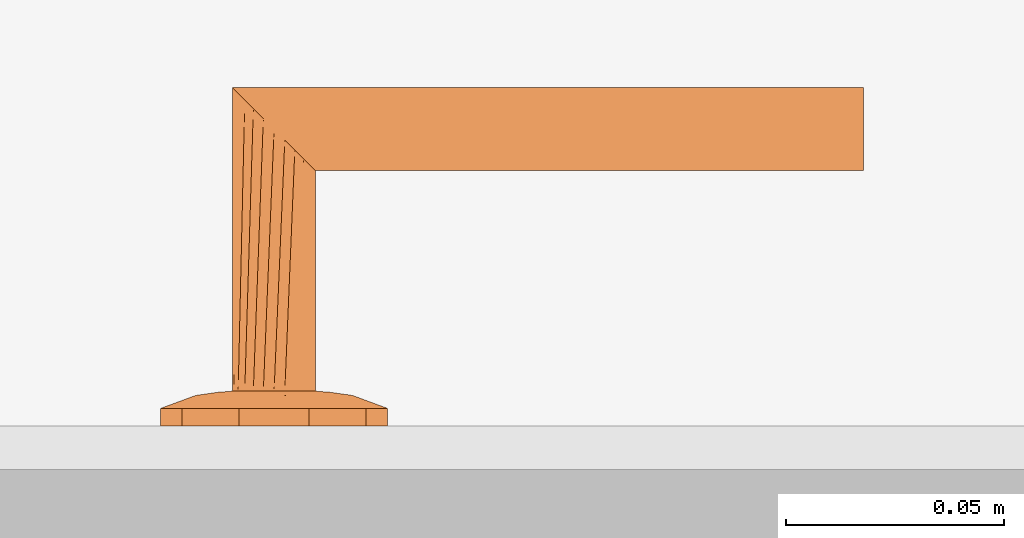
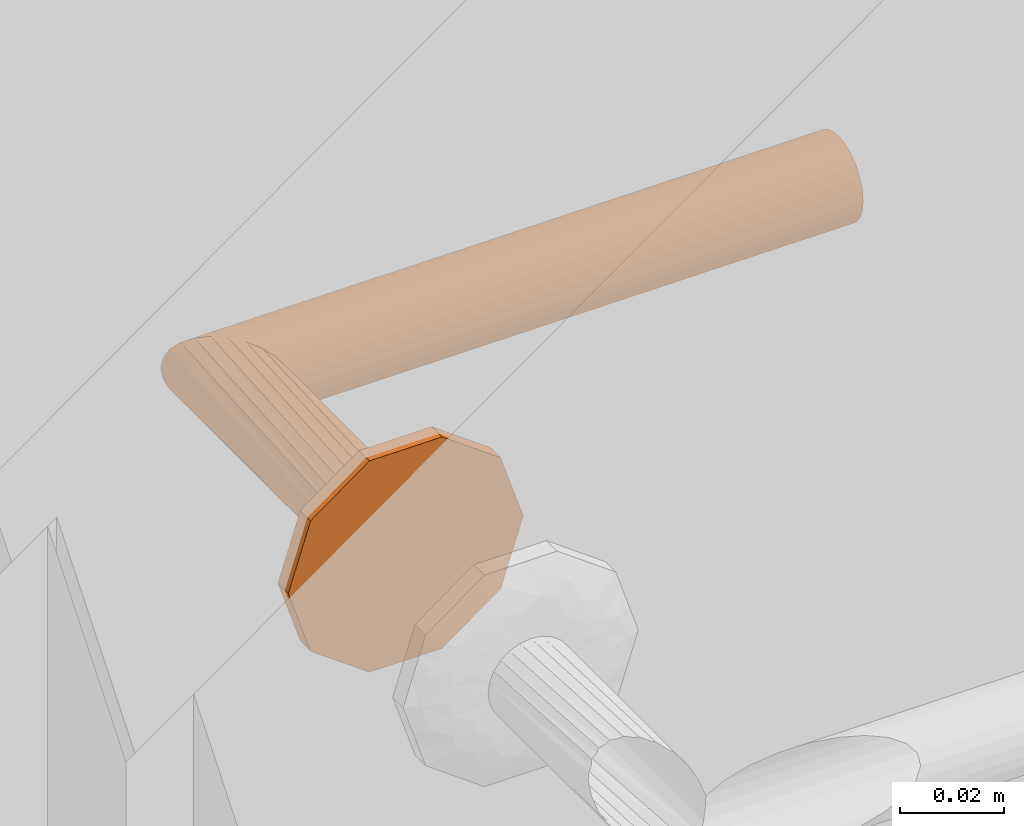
# One storey, part 44 of 55: 1 proxy.
"""IFC2X3 building model written with IfcOpenShell, lengths in millimetres."""

from ifc_helpers import new_model, entity, si_unit, converted_unit, direction, frame, origin, place, context, subcontext, project, spatial, faceted_brep, source, transform, mapped, material, type_object, type_shapes, element, save


model = new_model("IFC2X3")

# Units and contexts
model_context = context("Model", 3, precision=0.01, world=origin(), true_north=direction((6.123233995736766e-17, 1.0)))
plan_context = context("Plan", 3, precision=0.01, world=origin(), true_north=direction((6.123233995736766e-17, 1.0)))
body_context = subcontext(model_context, "Body", "Model", "MODEL_VIEW")
ifc_project = project(units=[si_unit("LENGTHUNIT", "METRE", prefix="MILLI"), converted_unit("PLANEANGLEUNIT", "DEGREE", entity("IfcPlaneAngleMeasure", 0.017453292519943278), si_unit("PLANEANGLEUNIT", "RADIAN"), dimensions=[0, 0, 0, 0, 0, 0, 0]), si_unit("AREAUNIT", "SQUARE_METRE")], contexts=[model_context, plan_context])

# Site, building, storey, space
site_placement = place(None, origin())
site = spatial("IfcSite", under=ifc_project, at=site_placement, Name="Default", CompositionType="ELEMENT")
building_placement = place(site_placement, origin())
building = spatial("IfcBuilding", under=site, at=building_placement, CompositionType="ELEMENT")
storey_placement = place(building_placement, origin())
storey = spatial("IfcBuildingStorey", under=building, at=storey_placement, Name="1K", CompositionType="ELEMENT", Elevation=0.0)
space_placement = place(storey_placement, origin())
space = spatial("IfcSpace", under=storey, at=space_placement, Name="1-0.5", CompositionType="ELEMENT", InteriorOrExteriorSpace="INTERNAL")

# Proxy
ifc_material = material(Name="<Unnamed>")
building_element_proxy_type = type_object("IfcBuildingElementProxyType", Name="Door-handle_Lever_ABLOY_INOXI_3-19ss-002_RT:Default", PredefinedType="NOTDEFINED", material=ifc_material)
shared_shape = source(origin(), body_context, "Body", "Brep", [
    faceted_brep([(0.0, 0.0, 0.0), (21.034441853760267, -15.282416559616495, 0.0), (14.534441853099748, -20.00494299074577, 0.0), (8.034441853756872, -24.72746942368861, 0.0), (0.0, -24.72746942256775, 0.0), (23.51722092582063, -7.6412082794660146, 0.0), (26.0, 0.0, 0.0), (-8.034441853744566, -24.727469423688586, 0.0), (-14.534441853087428, -20.00494299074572, 0.0), (-21.03444185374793, -15.282416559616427, 0.0), (-23.517220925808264, -7.641208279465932, 0.0), (-26.0, 0.0, 0.0), (-23.517220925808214, 7.641208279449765, 0.0), (23.517220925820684, 7.641208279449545, 0.0), (21.034441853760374, 15.282416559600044, 0.0), (14.53444185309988, 20.00494299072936, 0.0), (8.034441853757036, 24.72746942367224, 0.0), (-21.034441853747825, 15.282416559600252, 0.0), (-14.53444185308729, 20.004942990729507, 0.0), (-8.0344418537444, 24.72746942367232, 0.0), (0.0, 24.72746942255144, 0.0), (0.0, 0.0, 8.0), (4.7500000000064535, -8.227241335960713, 8.0), (5.937500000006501, -6.170431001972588, 8.0), (7.125000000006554, -4.113620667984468, 8.0), (8.312500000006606, -2.0568103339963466, 8.0), (9.500000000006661, 0.0, 8.0), (8.312500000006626, 2.056810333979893, 8.0), (2.3750000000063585, -8.227241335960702, 8.0), (0.0, -8.227241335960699, 8.0), (-2.3749999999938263, -8.227241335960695, 8.0), (-4.749999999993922, -8.227241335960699, 8.0), (-5.937499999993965, -6.170431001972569, 8.0), (-7.124999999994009, -4.113620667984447, 8.0), (-8.312499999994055, -2.056810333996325, 8.0), (-9.499999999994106, 0.0, 8.0), (7.125000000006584, 4.113620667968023, 8.0), (5.937500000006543, 6.170431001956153, 8.0), (4.750000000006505, 8.227241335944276, 8.0), (2.3750000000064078, 8.22724133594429, 8.0), (-8.31249999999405, 2.0568103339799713, 8.0), (-7.12499999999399, 4.113620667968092, 8.0), (-5.9374999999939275, 6.170431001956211, 8.0), (-4.74999999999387, 8.227241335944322, 8.0), (0.0, 8.227241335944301, 8.0), (-2.374999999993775, 8.227241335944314, 8.0), (-22.488765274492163, -10.806469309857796, 4.030771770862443), (-16.663919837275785, -7.932665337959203, 6.877259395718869), (-20.643071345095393, -6.292822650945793, 5.929480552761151), (-12.50457926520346, -5.179566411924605, 7.774932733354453), (-16.764060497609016, -3.820257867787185, 7.1747985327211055), (-9.071726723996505, -10.311606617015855, 7.7520782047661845), (-11.963426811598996, -8.625290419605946, 7.618343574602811), (-11.979136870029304, -13.678312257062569, 6.945778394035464), (5.7585542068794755, -20.96753300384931, 5.871476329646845), (0.0, -24.72746942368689, 4.030771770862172), (8.03444185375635, -24.727469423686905, 4.030771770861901), (16.66391982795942, -7.932665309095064, 6.877259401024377), (22.488765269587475, -10.806469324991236, 4.03077177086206), (20.64307133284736, -6.29282258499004, 5.929480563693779), (14.534441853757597, -20.004942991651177, 4.030771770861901), (9.499431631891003, -18.64368355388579, 6.154325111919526), (-15.783149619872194, -11.991003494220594, 6.50080018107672), (-21.034441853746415, -15.282416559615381, 4.030771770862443), (-14.53444185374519, -20.00494299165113, 4.030771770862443), (-23.012042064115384, 0.0, 5.135401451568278), (-23.943088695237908, -6.330522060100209, 4.030771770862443), (11.96342678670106, -8.62529049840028, 7.618343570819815), (12.504579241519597, -5.179566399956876, 7.774932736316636), (16.764060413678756, -3.8202578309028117, 7.17479855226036), (15.783149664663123, -11.991003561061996, 6.50080015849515), (17.985351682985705, 0.0, 6.993737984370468), (23.012042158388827, 0.0, 5.135401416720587), (8.661516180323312, -10.478936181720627, 7.768126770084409), (-8.03444185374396, -24.727469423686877, 4.030771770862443), (-3.3573143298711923, -21.197247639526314, 5.971427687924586), (-9.941915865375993, -17.061976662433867, 6.522757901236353), (-5.973257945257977, -16.430139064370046, 7.110979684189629), (-7.711266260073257, -12.760344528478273, 7.594456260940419), (11.979136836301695, -13.678312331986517, 6.945778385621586), (7.511307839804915, -13.358932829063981, 7.529187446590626), (5.953298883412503, -16.50608604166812, 7.096344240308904), (-1.5654593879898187, -15.307443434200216, 7.519134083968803), (-7.784980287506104, -20.476295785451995, 5.812837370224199), (2.8135289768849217, -17.76392260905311, 6.993737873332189), (-17.98535168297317, 0.0, 6.993737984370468), (-26.0, 0.0, 4.030771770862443), (-23.51722092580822, -7.641208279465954, 4.030771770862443), (23.943088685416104, -6.33052209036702, 4.030771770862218), (24.308823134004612, -5.204907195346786, 4.030771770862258), (26.0, 0.0, 4.030771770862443), (21.03444185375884, -15.282416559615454, 4.030771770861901), (22.617646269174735, -10.40981439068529, 4.030771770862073), (22.488765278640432, 10.806469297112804, 4.030771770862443), (16.66391984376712, 7.932665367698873, 6.877259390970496), (20.643071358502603, 6.292822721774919, 5.929480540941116), (12.504579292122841, 5.179566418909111, 7.774932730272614), (16.764060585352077, 3.8202579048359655, 7.174798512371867), (9.07172672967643, 10.31160659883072, 7.752078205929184), (11.963426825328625, 8.62529034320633, 7.618343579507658), (11.979136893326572, 13.67831220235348, 6.9457784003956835), (-5.758554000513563, 20.96753314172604, 5.8714763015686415), (0.0, 24.72746942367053, 4.030771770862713), (-8.03444185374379, 24.72746942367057, 4.030771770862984), (-16.663919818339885, 7.932665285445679, 6.877259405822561), (-22.48876526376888, 10.806469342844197, 4.030771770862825), (-20.643071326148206, 6.2928225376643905, 5.929480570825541), (-14.534441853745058, 20.004942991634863, 4.030771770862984), (-9.499431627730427, 18.643683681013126, 6.154325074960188), (15.783149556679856, 11.991003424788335, 6.5008002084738), (21.03444185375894, 15.282416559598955, 4.030771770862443), (14.534441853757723, 20.004942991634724, 4.030771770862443), (23.943088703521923, 6.330522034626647, 4.030771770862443), (-11.96342675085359, 8.625290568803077, 7.618343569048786), (-12.504579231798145, 5.179566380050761, 7.77493273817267), (-16.764060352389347, 3.820257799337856, 7.174798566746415), (-15.78314967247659, 11.991003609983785, 6.500800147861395), (-8.661516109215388, 10.478936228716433, 7.768126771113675), (8.034441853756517, 24.727469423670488, 4.030771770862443), (3.3573144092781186, 21.197247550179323, 5.971427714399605), (9.941915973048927, 17.061976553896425, 6.522757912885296), (5.9732581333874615, 16.430139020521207, 7.110979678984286), (7.711266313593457, 12.760344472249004, 7.5944562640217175), (-11.979136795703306, 13.678312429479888, 6.945778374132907), (-7.511307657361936, 13.358932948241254, 7.5291874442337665), (-5.9532988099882, 16.50608628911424, 7.096344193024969), (1.5654596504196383, 15.3074431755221, 7.519134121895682), (7.784980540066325, 20.476295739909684, 5.812837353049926), (-2.81352881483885, 17.76392263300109, 6.993737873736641), (23.51722092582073, 7.6412082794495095, 4.030771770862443), (-23.94308867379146, 6.330522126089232, 4.030771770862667), (-24.308823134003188, 5.20490719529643, 4.030771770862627), (-21.034441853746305, 15.282416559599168, 4.030771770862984), (-22.617646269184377, 10.409814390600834, 4.0307717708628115)], [[[0, 1, 2]], [[0, 2, 3]], [[0, 3, 4]], [[0, 5, 1]], [[0, 6, 5]], [[0, 4, 7]], [[0, 7, 8]], [[0, 8, 9]], [[0, 9, 10]], [[0, 10, 11]], [[0, 11, 12]], [[0, 13, 6]], [[0, 14, 13]], [[0, 15, 14]], [[0, 16, 15]], [[0, 12, 17]], [[0, 17, 18]], [[0, 18, 19]], [[0, 19, 20]], [[0, 20, 16]], [[21, 22, 23]], [[21, 23, 24]], [[21, 24, 25]], [[21, 25, 26]], [[21, 26, 27]], [[21, 28, 22]], [[21, 29, 28]], [[21, 30, 29]], [[21, 31, 30]], [[21, 32, 31]], [[21, 33, 32]], [[21, 34, 33]], [[21, 35, 34]], [[21, 27, 36]], [[21, 36, 37]], [[21, 37, 38]], [[21, 38, 39]], [[21, 40, 35]], [[21, 41, 40]], [[21, 42, 41]], [[21, 43, 42]], [[21, 39, 44]], [[21, 44, 45]], [[21, 45, 43]], [[46, 47, 48]], [[47, 49, 50]], [[49, 33, 34]], [[51, 52, 53]], [[49, 52, 33]], [[48, 47, 50]], [[54, 55, 56]], [[57, 58, 59]], [[56, 60, 61]], [[62, 63, 64]], [[65, 66, 48]], [[67, 57, 68]], [[68, 69, 25]], [[57, 67, 70]], [[69, 26, 25]], [[62, 53, 52]], [[71, 69, 72]], [[67, 23, 73]], [[74, 55, 75]], [[76, 77, 78]], [[79, 60, 70]], [[69, 59, 72]], [[80, 81, 61]], [[77, 30, 78]], [[82, 30, 77]], [[28, 80, 22]], [[77, 83, 75]], [[75, 82, 77]], [[55, 84, 75]], [[85, 50, 35]], [[24, 68, 25]], [[82, 84, 29]], [[84, 82, 75]], [[31, 78, 30]], [[82, 29, 30]], [[34, 35, 50]], [[52, 49, 47]], [[62, 52, 47]], [[34, 50, 49]], [[53, 78, 51]], [[32, 33, 52]], [[85, 65, 50]], [[66, 65, 86]], [[67, 68, 24]], [[77, 76, 83]], [[65, 48, 50]], [[63, 62, 46]], [[48, 66, 87, 46]], [[62, 47, 46]], [[69, 68, 57]], [[80, 73, 22]], [[70, 67, 79]], [[67, 24, 23]], [[72, 88, 89, 90]], [[69, 71, 26]], [[59, 69, 57]], [[61, 60, 79]], [[62, 64, 53]], [[91, 58, 70]], [[72, 59, 88]], [[57, 70, 58]], [[59, 58, 92]], [[80, 61, 79]], [[91, 70, 60]], [[61, 81, 54]], [[73, 80, 79]], [[28, 84, 81]], [[67, 73, 79]], [[29, 84, 28]], [[22, 73, 23]], [[51, 31, 32]], [[76, 78, 53]], [[53, 64, 76]], [[83, 64, 74]], [[64, 83, 76]], [[75, 83, 74]], [[31, 51, 78]], [[52, 51, 32]], [[28, 81, 80]], [[54, 81, 84]], [[55, 54, 84]], [[61, 54, 56]], [[93, 94, 95]], [[94, 96, 97]], [[96, 36, 27]], [[98, 99, 100]], [[96, 99, 36]], [[95, 94, 97]], [[101, 102, 103]], [[104, 105, 106]], [[103, 107, 108]], [[109, 110, 111]], [[72, 112, 95]], [[113, 104, 114]], [[114, 115, 40]], [[104, 113, 116]], [[115, 35, 40]], [[109, 100, 99]], [[85, 115, 65]], [[113, 42, 117]], [[118, 102, 119]], [[120, 121, 122]], [[123, 107, 116]], [[115, 106, 65]], [[124, 125, 108]], [[121, 39, 122]], [[126, 39, 121]], [[45, 124, 43]], [[121, 127, 119]], [[119, 126, 121]], [[102, 128, 119]], [[71, 97, 26]], [[41, 114, 40]], [[126, 128, 44]], [[128, 126, 119]], [[38, 122, 39]], [[126, 44, 39]], [[27, 26, 97]], [[99, 96, 94]], [[109, 99, 94]], [[27, 97, 96]], [[100, 122, 98]], [[37, 36, 99]], [[71, 72, 97]], [[112, 72, 90]], [[113, 114, 41]], [[121, 120, 127]], [[72, 95, 97]], [[110, 109, 93]], [[95, 112, 129, 93]], [[109, 94, 93]], [[115, 114, 104]], [[124, 117, 43]], [[116, 113, 123]], [[113, 41, 42]], [[65, 130, 131, 86]], [[115, 85, 35]], [[106, 115, 104]], [[108, 107, 123]], [[109, 111, 100]], [[132, 105, 116]], [[65, 106, 130]], [[104, 116, 105]], [[106, 105, 133]], [[124, 108, 123]], [[132, 116, 107]], [[108, 125, 101]], [[117, 124, 123]], [[45, 128, 125]], [[113, 117, 123]], [[44, 128, 45]], [[43, 117, 42]], [[98, 38, 37]], [[120, 122, 100]], [[100, 111, 120]], [[127, 111, 118]], [[111, 127, 120]], [[119, 127, 118]], [[38, 98, 122]], [[99, 98, 37]], [[45, 125, 124]], [[101, 125, 128]], [[102, 101, 128]], [[108, 101, 103]], [[7, 74, 64, 63, 9, 8]], [[10, 9, 63, 46, 87, 66, 86, 11]], [[6, 90, 89, 88, 92, 1, 5]], [[1, 58, 91]], [[74, 7, 4, 3, 56, 55]], [[60, 56, 3, 2, 1, 91]], [[1, 92, 58]], [[14, 110, 93, 129, 112, 90, 6, 13]], [[111, 110, 14, 15, 16, 118]], [[11, 86, 131, 130, 133, 17, 12]], [[17, 105, 132]], [[118, 16, 20, 19, 103, 102]], [[107, 103, 19, 18, 17, 132]], [[17, 133, 105]], [[59, 92, 88]], [[106, 133, 130]]]),
    faceted_brep([(4.7499999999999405, -8.22724133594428, 8.0), (2.4587809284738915, -9.176295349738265, 8.0), (0.0, -9.499999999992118, 8.0), (-2.4587809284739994, -9.176295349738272, 8.0), (-4.7500000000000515, -8.227241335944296, 8.0), (-6.717514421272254, -6.717514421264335, 8.0), (-8.227241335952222, -4.74999999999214, 8.0), (-9.176295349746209, -2.4587809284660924, 8.0), (-9.500000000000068, 0.0, 8.0), (-9.176295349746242, 2.458780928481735, 8.0), (-8.227241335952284, 4.750000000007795, 8.0), (-6.717514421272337, 6.717514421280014, 8.0), (-4.750000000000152, 8.227241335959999, 8.0), (-2.4587809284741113, 9.176295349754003, 8.0), (0.0, 9.500000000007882, 8.0), (2.4587809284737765, 9.176295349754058, 8.0), (4.7499999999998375, 8.227241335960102, 8.0), (6.717514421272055, 6.717514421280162, 8.0), (8.22724133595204, 4.75000000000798, 8.0), (9.17629534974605, 2.458780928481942, 8.0), (9.499999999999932, 0.0, 8.0), (9.17629534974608, -2.458780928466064, 8.0), (8.227241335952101, -4.749999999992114, 8.0), (6.717514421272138, -6.7175144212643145, 8.0), (-8.227241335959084, 4.7499999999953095, 59.772758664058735), (-6.717514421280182, 6.7175144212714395, 61.282485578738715), (-9.176295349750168, 2.458780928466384, 58.82370465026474), (-4.750000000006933, 8.227241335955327, 63.25000000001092), (-2.4587809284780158, 9.176295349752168, 65.54121907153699), (-9.500000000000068, 0.0, 58.50000000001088), (0.0, 9.50000000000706, 68.0), (4.750000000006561, 8.227241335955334, 72.75000000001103), (2.4587809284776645, 9.17629534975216, 70.45878092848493), (6.717514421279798, 6.7175144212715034, 74.71751442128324), (8.22724133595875, 4.749999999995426, 76.22724133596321), (9.17629534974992, 2.458780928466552, 77.17629534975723), (9.499999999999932, 0.0, 77.50000000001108), (9.176295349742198, -2.4587809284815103, 77.1762953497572), (8.227241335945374, -4.750000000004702, 76.22724133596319), (6.7175144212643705, -6.717514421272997, 74.7175144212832), (4.749999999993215, -8.227241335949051, 72.75000000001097), (2.4587809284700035, -9.17629534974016, 70.45878092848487), (0.0, -9.49999999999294, 68.0), (-2.4587809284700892, -9.176295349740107, 65.54121907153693), (-4.749999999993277, -8.227241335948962, 63.250000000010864), (-6.717514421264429, -6.717514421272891, 61.282485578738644), (-9.176295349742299, -2.458780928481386, 58.8237046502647), (-8.227241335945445, -4.750000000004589, 59.77275866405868), (-135.0, -9.176295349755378, 70.4587809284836), (-135.0, -8.227241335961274, 72.75000000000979), (-135.0, -6.717514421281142, 74.71751442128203), (-135.0, -4.750000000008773, 76.22724133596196), (-135.0, -2.4587809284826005, 77.17629534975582), (-135.0, 0.0, 77.5000000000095), (-135.0, 2.4587809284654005, 77.17629534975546), (-135.0, 4.749999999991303, 76.22724133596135), (-135.0, 6.717514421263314, 74.71751442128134), (-135.0, 8.227241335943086, 72.75000000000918), (-135.0, 9.17629534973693, 70.45878092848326), (-135.0, 9.499999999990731, 68.0), (-135.0, 9.17629534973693, 65.54121907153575), (-135.0, 8.227241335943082, 63.250000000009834), (-135.0, 6.717514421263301, 61.28248557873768), (-135.0, 4.749999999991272, 59.772758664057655), (-135.0, 2.458780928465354, 58.823704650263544), (-135.0, 0.0, 58.50000000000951), (-135.0, -2.458780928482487, 58.82370465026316), (-135.0, -4.750000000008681, 59.772758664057), (-135.0, -6.7175144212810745, 61.28248557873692), (-135.0, -8.227241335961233, 63.25000000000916), (-135.0, -9.176295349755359, 65.54121907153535), (-135.0, -9.500000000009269, 68.0)], [[[0, 1, 2, 3, 4, 5, 6, 7, 8, 9, 10, 11, 12, 13, 14, 15, 16, 17, 18, 19, 20, 21, 22, 23]], [[24, 25, 11, 10]], [[26, 24, 10, 9]], [[14, 27, 28]], [[13, 27, 14]], [[25, 27, 13]], [[29, 26, 9, 8]], [[12, 11, 25]], [[25, 13, 12]], [[28, 30, 15]], [[31, 17, 32]], [[33, 18, 31]], [[19, 34, 35]], [[33, 34, 19]], [[20, 19, 35, 36]], [[16, 15, 30]], [[14, 28, 15]], [[19, 18, 33]], [[17, 31, 18]], [[17, 16, 32]], [[30, 32, 16]], [[20, 36, 37, 21]], [[38, 21, 37]], [[22, 39, 40]], [[38, 39, 21]], [[23, 40, 41]], [[39, 22, 21]], [[1, 42, 43]], [[42, 1, 0]], [[23, 41, 0]], [[23, 22, 40]], [[41, 42, 0]], [[44, 45, 3]], [[43, 44, 2]], [[46, 29, 8, 7]], [[47, 46, 7, 6]], [[45, 47, 6, 5]], [[45, 4, 3]], [[3, 2, 44]], [[5, 4, 45]], [[43, 2, 1]], [[48, 49, 50, 51, 52, 53, 54, 55, 56, 57, 58, 59, 60, 61, 62, 63, 64, 65, 66, 67, 68, 69, 70, 71]], [[64, 63, 24, 26]], [[65, 64, 26, 29]], [[61, 60, 28, 27]], [[62, 61, 27, 25]], [[63, 62, 25, 24]], [[59, 30, 28, 60]], [[57, 56, 33, 31]], [[58, 57, 31, 32]], [[54, 53, 36, 35]], [[55, 54, 35, 34]], [[56, 55, 34, 33]], [[32, 30, 59, 58]], [[52, 51, 38, 37]], [[53, 52, 37, 36]], [[49, 48, 41, 40]], [[50, 49, 40, 39]], [[51, 50, 39, 38]], [[42, 41, 48, 71]], [[69, 68, 45, 44]], [[70, 69, 44, 43]], [[66, 65, 29, 46]], [[67, 66, 46, 47]], [[68, 67, 47, 45]], [[42, 71, 70, 43]]]),
])
type_shapes(building_element_proxy_type, [shared_shape])
proxy_placement = place(space_placement, frame((14750.0, 3109.999959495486, 1000.0), z_axis=(0.0, 1.0, 0.0), x_axis=(-1.0, 0.0, 0.0)))
element("IfcBuildingElementProxy", 1, at=proxy_placement, inside=space, type_object=building_element_proxy_type, material=ifc_material, Name="Door-handle_Lever_ABLOY_INOXI_3-19ss-002_RT:Default", ObjectType="Door-handle_Lever_ABLOY_INOXI_3-19ss-002_RT:Default", context=body_context, shape_type="MappedRepresentation", body=[
    mapped(shared_shape, transform((0.0, 0.0, 0.0), scale=1.0)),
])

save(model, "model.ifc")
